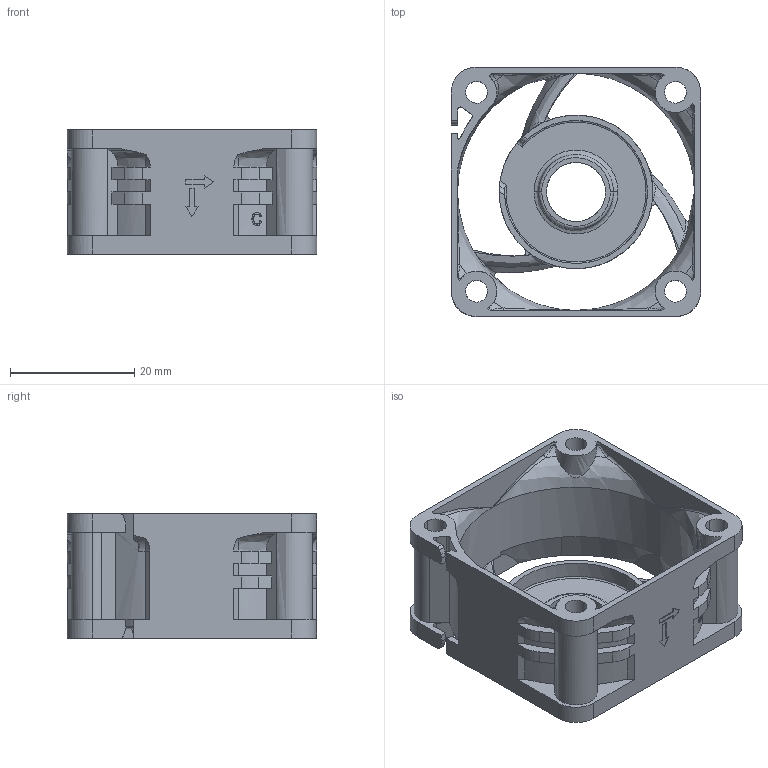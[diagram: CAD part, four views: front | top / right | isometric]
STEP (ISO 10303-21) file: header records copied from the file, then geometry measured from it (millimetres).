
FILE_DESCRIPTION (( 'STEP AP203' ), '1' );
FILE_NAME ('4020D外框.stp', '2025-09-16T02:59:21', ( '' ), ( '' ), 'SwSTEP 2.0', 'SolidWorks 2024', '' );
FILE_SCHEMA (( 'CONFIG_CONTROL_DESIGN' ));
Length unit declared in the file: millimetre
Products named in the file (1): 4020D外框
Bounding box: 40.1 x 40.15 x 20.01 mm (x, y, z)
Volume: 6894.7 mm3; surface area: 9400.6 mm2
Topology: 1 solids, 1 shells, 565 faces, 1513 edges, 980 vertices
Faces by surface type: bspline 565
Entity records: 22064 total; most frequent: CARTESIAN_POINT 13327, ORIENTED_EDGE 2998, EDGE_CURVE 1499, B_SPLINE_CURVE_WITH_KNOTS 1024, VERTEX_POINT 980, EDGE_LOOP 625, FACE_OUTER_BOUND 565, ADVANCED_FACE 565
